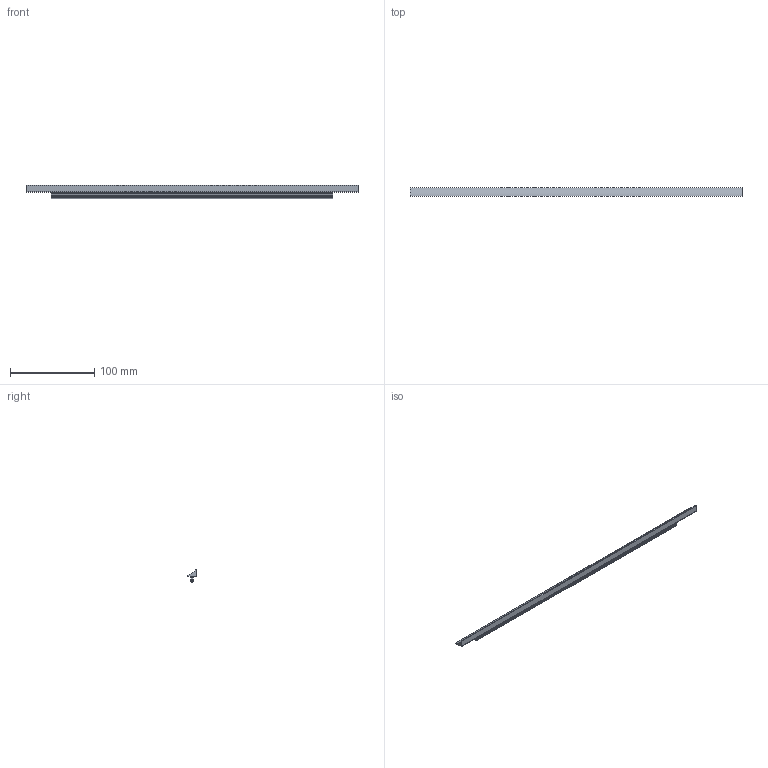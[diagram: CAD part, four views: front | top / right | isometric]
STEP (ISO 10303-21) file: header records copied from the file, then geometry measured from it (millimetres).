
FILE_DESCRIPTION( ( 'STEP AP214' ), '1' );
FILE_NAME( 'C:/Users/KOSH/Desktop/2021/Sunil/New folder/9208098.stp', '2021-11-15T12:54:03', ( '' ), ( '' ), ' ', 'PARTsolutions', ' ' );
FILE_SCHEMA( ( 'AUTOMOTIVE_DESIGN { 1 0 10303 214 1 1 1 1 }' ) );
Length unit declared in the file: millimetre
Products named in the file (1): _9208098
Bounding box: 395 x 10.5 x 16.51 mm (x, y, z)
Volume: 21000.5 mm3; surface area: 19504 mm2
Topology: 1 solids, 1 shells, 29 faces, 78 edges, 52 vertices
Faces by surface type: plane 25, cylinder 4
Entity records: 1148 total; most frequent: CARTESIAN_POINT 160, ORIENTED_EDGE 156, DIRECTION 146, EDGE_CURVE 78, LINE 70, VECTOR 70, VERTEX_POINT 52, AXIS2_PLACEMENT_3D 38
